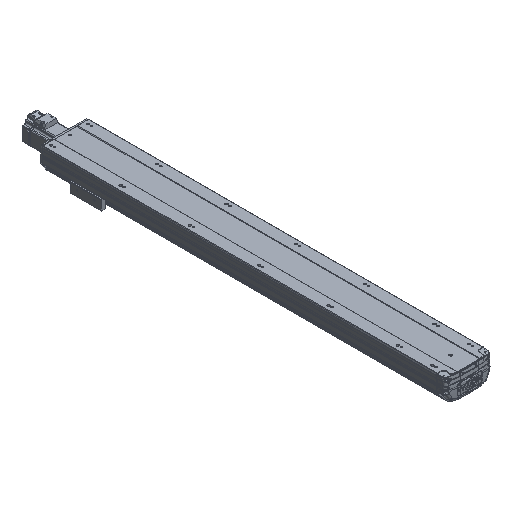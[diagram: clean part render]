
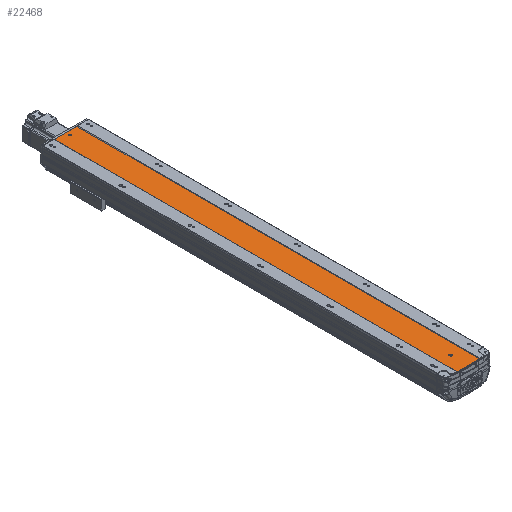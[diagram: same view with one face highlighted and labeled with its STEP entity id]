
A CAD part, isometric view. The second image highlights one B-rep face of the part: STEP entity #22468.
In plain terms, the highlighted planar face has unit normal (0, 0, 1).
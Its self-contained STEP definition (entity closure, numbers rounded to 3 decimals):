
#143 = VECTOR ( 'NONE', #6495, 1000. ) ;
#180 = VECTOR ( 'NONE', #44329, 1000. ) ;
#279 = CARTESIAN_POINT ( 'NONE',  ( 3., -1110.5, 35.45 ) ) ;
#509 = AXIS2_PLACEMENT_3D ( 'NONE', #3200, #35168, #7767 ) ;
#567 = LINE ( 'NONE', #57514, #47762 ) ;
#1342 = ORIENTED_EDGE ( 'NONE', *, *, #16238, .F. ) ;
#2733 = DIRECTION ( 'NONE',  ( 0., -1., 0. ) ) ;
#3200 = CARTESIAN_POINT ( 'NONE',  ( 0., -1112.5, 35.45 ) ) ;
#6466 = ORIENTED_EDGE ( 'NONE', *, *, #25189, .F. ) ;
#6495 = DIRECTION ( 'NONE',  ( 0., 1., 0. ) ) ;
#6852 = EDGE_CURVE ( 'NONE', #20217, #55769, #24398, .T. ) ;
#7180 = CARTESIAN_POINT ( 'NONE',  ( 32.5, 0., 35.45 ) ) ;
#7466 = CARTESIAN_POINT ( 'NONE',  ( 32.5, -1162., 35.45 ) ) ;
#7711 = VERTEX_POINT ( 'NONE', #24623 ) ;
#7767 = DIRECTION ( 'NONE',  ( 1., 0., 0. ) ) ;
#8461 = DIRECTION ( 'NONE',  ( 0., 0., 1. ) ) ;
#8567 = AXIS2_PLACEMENT_3D ( 'NONE', #58193, #43984, #16414 ) ;
#8848 = DIRECTION ( 'NONE',  ( 1., 0., 0. ) ) ;
#9260 = DIRECTION ( 'NONE',  ( 0., 1., 0. ) ) ;
#9543 = ORIENTED_EDGE ( 'NONE', *, *, #57673, .F. ) ;
#10825 = FACE_OUTER_BOUND ( 'NONE', #19338, .T. ) ;
#11089 = LINE ( 'NONE', #279, #58299 ) ;
#11178 = DIRECTION ( 'NONE',  ( 1., 0., 0. ) ) ;
#11915 = ORIENTED_EDGE ( 'NONE', *, *, #21790, .T. ) ;
#12490 = CARTESIAN_POINT ( 'NONE',  ( 0., -11.5, 35.45 ) ) ;
#14200 = EDGE_CURVE ( 'NONE', #58138, #28965, #44515, .T. ) ;
#14339 = DIRECTION ( 'NONE',  ( 0., 1., 0. ) ) ;
#16238 = EDGE_CURVE ( 'NONE', #37500, #7711, #567, .T. ) ;
#16414 = DIRECTION ( 'NONE',  ( 1., 0., 0. ) ) ;
#17648 = VECTOR ( 'NONE', #11178, 1000. ) ;
#18402 = DIRECTION ( 'NONE',  ( 0., 0., 1. ) ) ;
#18619 = VERTEX_POINT ( 'NONE', #19888 ) ;
#19338 = EDGE_LOOP ( 'NONE', ( #57222, #9543, #55058, #11915 ) ) ;
#19694 = CARTESIAN_POINT ( 'NONE',  ( 32.5, -1162., 35.45 ) ) ;
#19888 = CARTESIAN_POINT ( 'NONE',  ( 3., -1112.5, 35.45 ) ) ;
#20217 = VERTEX_POINT ( 'NONE', #38127 ) ;
#21790 = EDGE_CURVE ( 'NONE', #28965, #29328, #32343, .T. ) ;
#22468 = ADVANCED_FACE ( 'NONE', ( #39429, #32280, #10825 ), #34613, .T. ) ;
#24365 = LINE ( 'NONE', #45904, #27237 ) ;
#24398 = CIRCLE ( 'NONE', #27125, 3. ) ;
#24623 = CARTESIAN_POINT ( 'NONE',  ( -3., -1112.5, 35.45 ) ) ;
#25030 = VERTEX_POINT ( 'NONE', #31060 ) ;
#25189 = EDGE_CURVE ( 'NONE', #25030, #37500, #32971, .T. ) ;
#26672 = DIRECTION ( 'NONE',  ( 1., 0., 0. ) ) ;
#27125 = AXIS2_PLACEMENT_3D ( 'NONE', #59215, #18402, #41036 ) ;
#27237 = VECTOR ( 'NONE', #14339, 1000. ) ;
#27515 = EDGE_CURVE ( 'NONE', #7711, #18619, #34170, .T. ) ;
#28337 = EDGE_CURVE ( 'NONE', #31678, #29328, #44831, .T. ) ;
#28965 = VERTEX_POINT ( 'NONE', #7466 ) ;
#29328 = VERTEX_POINT ( 'NONE', #7180 ) ;
#31060 = CARTESIAN_POINT ( 'NONE',  ( 3., -1110.5, 35.45 ) ) ;
#31678 = VERTEX_POINT ( 'NONE', #58150 ) ;
#32280 = FACE_BOUND ( 'NONE', #40169, .T. ) ;
#32343 = LINE ( 'NONE', #19694, #143 ) ;
#32971 = CIRCLE ( 'NONE', #38176, 3. ) ;
#34170 = CIRCLE ( 'NONE', #509, 3. ) ;
#34613 = PLANE ( 'NONE',  #8567 ) ;
#35168 = DIRECTION ( 'NONE',  ( 0., 0., 1. ) ) ;
#35188 = CARTESIAN_POINT ( 'NONE',  ( -32.5, -1162., 35.45 ) ) ;
#36053 = CARTESIAN_POINT ( 'NONE',  ( 0., -1110.5, 35.45 ) ) ;
#36239 = DIRECTION ( 'NONE',  ( 0., 0., 1. ) ) ;
#36473 = ORIENTED_EDGE ( 'NONE', *, *, #49039, .F. ) ;
#37500 = VERTEX_POINT ( 'NONE', #45213 ) ;
#38127 = CARTESIAN_POINT ( 'NONE',  ( -3., -11.5, 35.45 ) ) ;
#38176 = AXIS2_PLACEMENT_3D ( 'NONE', #36053, #36239, #8848 ) ;
#39429 = FACE_BOUND ( 'NONE', #50336, .T. ) ;
#40169 = EDGE_LOOP ( 'NONE', ( #36473, #44023 ) ) ;
#41036 = DIRECTION ( 'NONE',  ( 1., 0., 0. ) ) ;
#42225 = CARTESIAN_POINT ( 'NONE',  ( -32.5, -1162., 35.45 ) ) ;
#43075 = AXIS2_PLACEMENT_3D ( 'NONE', #12490, #8461, #26672 ) ;
#43984 = DIRECTION ( 'NONE',  ( 0., 0., 1. ) ) ;
#44023 = ORIENTED_EDGE ( 'NONE', *, *, #6852, .F. ) ;
#44329 = DIRECTION ( 'NONE',  ( 1., 0., 0. ) ) ;
#44515 = LINE ( 'NONE', #35188, #180 ) ;
#44831 = LINE ( 'NONE', #57141, #17648 ) ;
#45213 = CARTESIAN_POINT ( 'NONE',  ( -3., -1110.5, 35.45 ) ) ;
#45904 = CARTESIAN_POINT ( 'NONE',  ( -32.5, -1162., 35.45 ) ) ;
#47762 = VECTOR ( 'NONE', #2733, 1000. ) ;
#49039 = EDGE_CURVE ( 'NONE', #55769, #20217, #53674, .T. ) ;
#50336 = EDGE_LOOP ( 'NONE', ( #6466, #51506, #52467, #1342 ) ) ;
#51506 = ORIENTED_EDGE ( 'NONE', *, *, #54674, .F. ) ;
#52098 = CARTESIAN_POINT ( 'NONE',  ( 3., -11.5, 35.45 ) ) ;
#52467 = ORIENTED_EDGE ( 'NONE', *, *, #27515, .F. ) ;
#53674 = CIRCLE ( 'NONE', #43075, 3. ) ;
#54674 = EDGE_CURVE ( 'NONE', #18619, #25030, #11089, .T. ) ;
#55058 = ORIENTED_EDGE ( 'NONE', *, *, #14200, .T. ) ;
#55769 = VERTEX_POINT ( 'NONE', #52098 ) ;
#57141 = CARTESIAN_POINT ( 'NONE',  ( -32.5, 0., 35.45 ) ) ;
#57222 = ORIENTED_EDGE ( 'NONE', *, *, #28337, .F. ) ;
#57514 = CARTESIAN_POINT ( 'NONE',  ( -3., -1110.5, 35.45 ) ) ;
#57673 = EDGE_CURVE ( 'NONE', #58138, #31678, #24365, .T. ) ;
#58138 = VERTEX_POINT ( 'NONE', #42225 ) ;
#58150 = CARTESIAN_POINT ( 'NONE',  ( -32.5, 0., 35.45 ) ) ;
#58193 = CARTESIAN_POINT ( 'NONE',  ( -32.5, -1162., 35.45 ) ) ;
#58299 = VECTOR ( 'NONE', #9260, 1000. ) ;
#59215 = CARTESIAN_POINT ( 'NONE',  ( 0., -11.5, 35.45 ) ) ;
